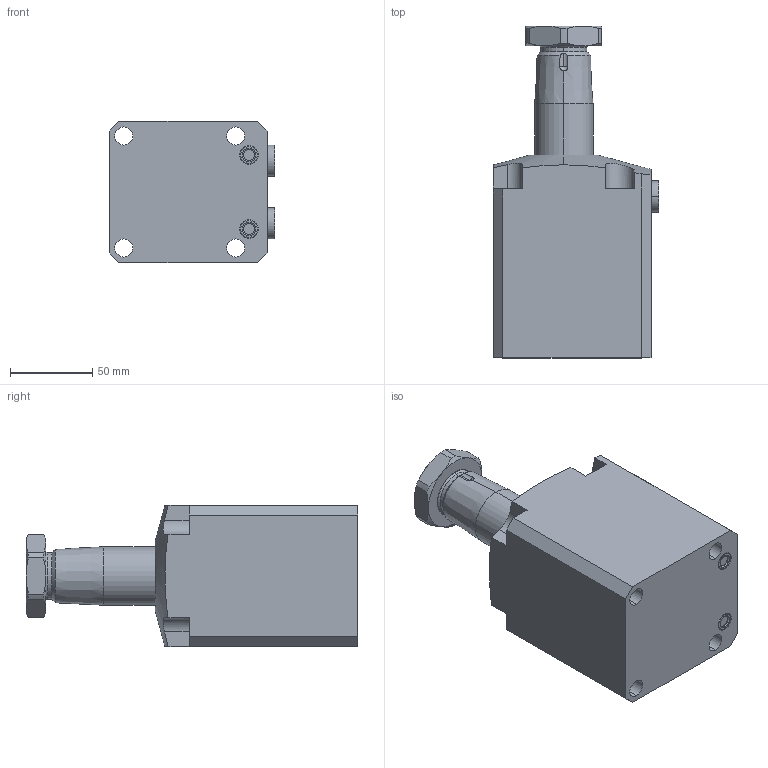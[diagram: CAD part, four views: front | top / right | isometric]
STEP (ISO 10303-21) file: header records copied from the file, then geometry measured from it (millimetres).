
FILE_DESCRIPTION(/* description */ (''),/* implementation_level */ '2;1');
FILE_NAME(/* name */ 'BRC16-L.stp',/* time_stamp */ '2025-01-04T13:55:48+08:00',/* author */ (''),/* organization */ (''),/* preprocessor_version */ 'ST-DEVELOPER v16.7',/* originating_system */ 'SIEMENS PLM Software NX 12.0',/* authorisation */ '');
FILE_SCHEMA (('AUTOMOTIVE_DESIGN { 1 0 10303 214 3 1 1 1 }'));
Length unit declared in the file: millimetre
Products named in the file (5): BRC16-L-04; BRC16-L-03; BRC16-L-02; BRC16-L-01; BTU16-L_step
Assembly tree (5 placements, depth 2):
  BTU16-L_step
    BRC16-L-01
    BRC16-L-02
    BRC16-L-03  x2
    BRC16-L-04
Bounding box: 100.8 x 201.5 x 86 mm (x, y, z)
Volume: 975784.2 mm3; surface area: 94516.4 mm2
Topology: 7 solids, 7 shells, 176 faces, 401 edges, 248 vertices
Faces by surface type: plane 68, cylinder 57, cone 34, torus 16, sphere 1
Full cylindrical faces by diameter (mm): 13.15 x2
Entity records: 4667 total; most frequent: CARTESIAN_POINT 964, DIRECTION 778, ORIENTED_EDGE 712, EDGE_CURVE 356, AXIS2_PLACEMENT_3D 313, VERTEX_POINT 222, EDGE_LOOP 180, ADVANCED_FACE 156
